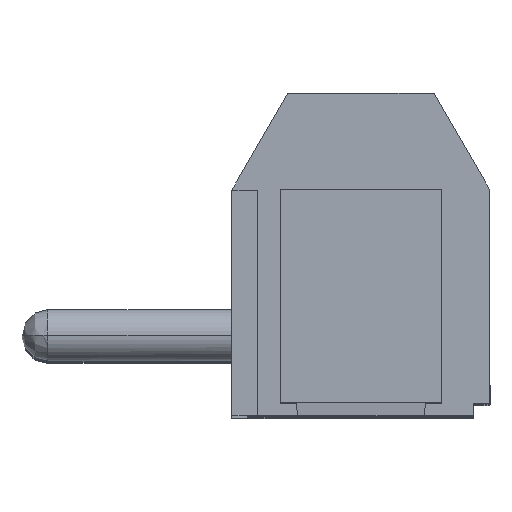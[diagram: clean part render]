
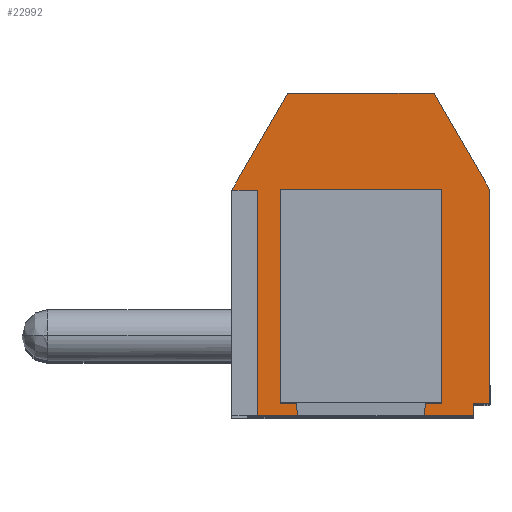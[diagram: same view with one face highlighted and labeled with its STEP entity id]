
A CAD part, top view. The second image highlights one B-rep face of the part: STEP entity #22992.
In plain terms, the highlighted planar face has unit normal (0, 0, 1).
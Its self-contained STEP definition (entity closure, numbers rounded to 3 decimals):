
#11508 = CARTESIAN_POINT ( 'NONE',  ( -3.471, -5.096, -5. ) ) ;
#11515 = DIRECTION ( 'NONE',  ( 1., 0., 0. ) ) ;
#11516 = VECTOR ( 'NONE', #11515, 1000. ) ;
#11517 = CARTESIAN_POINT ( 'NONE',  ( -0.271, -5.096, -5. ) ) ;
#11518 = LINE ( 'NONE', #11517, #11516 ) ;
#11536 = DIRECTION ( 'NONE',  ( 1., 0., 0. ) ) ;
#11537 = VECTOR ( 'NONE', #11536, 1000. ) ;
#11538 = CARTESIAN_POINT ( 'NONE',  ( -0.271, -4.696, -5. ) ) ;
#11539 = LINE ( 'NONE', #11538, #11537 ) ;
#11540 = CARTESIAN_POINT ( 'NONE',  ( 3.729, -4.696, -5. ) ) ;
#11556 = CARTESIAN_POINT ( 'NONE',  ( 3.229, -5.096, -5. ) ) ;
#11557 = DIRECTION ( 'NONE',  ( 0., 1., 0. ) ) ;
#11558 = VECTOR ( 'NONE', #11557, 1000. ) ;
#11559 = CARTESIAN_POINT ( 'NONE',  ( 3.229, -0.096, -5. ) ) ;
#11560 = LINE ( 'NONE', #11559, #11558 ) ;
#11575 = CARTESIAN_POINT ( 'NONE',  ( 3.229, -4.696, -5. ) ) ;
#11601 = CARTESIAN_POINT ( 'NONE',  ( 2.229, 1.904, -5. ) ) ;
#11602 = CARTESIAN_POINT ( 'NONE',  ( -2.771, 1.904, -5. ) ) ;
#11604 = DIRECTION ( 'NONE',  ( 1., 0., 0. ) ) ;
#11605 = VECTOR ( 'NONE', #11604, 1000. ) ;
#11606 = CARTESIAN_POINT ( 'NONE',  ( -0.271, 1.904, -5. ) ) ;
#11607 = LINE ( 'NONE', #11606, #11605 ) ;
#11629 = CARTESIAN_POINT ( 'NONE',  ( 2.229, -4.696, -5. ) ) ;
#11630 = DIRECTION ( 'NONE',  ( 0., -1., 0. ) ) ;
#11631 = VECTOR ( 'NONE', #11630, 1000. ) ;
#11632 = CARTESIAN_POINT ( 'NONE',  ( 2.229, -0.096, -5. ) ) ;
#11633 = LINE ( 'NONE', #11632, #11631 ) ;
#11667 = CARTESIAN_POINT ( 'NONE',  ( -0.271, -4.696, -5. ) ) ;
#11668 = LINE ( 'NONE', #11667, #11729 ) ;
#11679 = DIRECTION ( 'NONE',  ( 0., 1., 0. ) ) ;
#11680 = VECTOR ( 'NONE', #11679, 1000. ) ;
#11681 = CARTESIAN_POINT ( 'NONE',  ( -2.771, -0.096, -5. ) ) ;
#11682 = LINE ( 'NONE', #11681, #11680 ) ;
#11727 = CARTESIAN_POINT ( 'NONE',  ( -2.771, -4.696, -5. ) ) ;
#11728 = DIRECTION ( 'NONE',  ( -1., 0., 0. ) ) ;
#11729 = VECTOR ( 'NONE', #11728, 1000. ) ;
#12342 = DIRECTION ( 'NONE',  ( 0., 1., 0. ) ) ;
#12343 = VECTOR ( 'NONE', #12342, 1000. ) ;
#12344 = CARTESIAN_POINT ( 'NONE',  ( 3.729, -0.096, -5. ) ) ;
#12345 = LINE ( 'NONE', #12344, #12343 ) ;
#12362 = VECTOR ( 'NONE', #12429, 1000. ) ;
#12363 = CARTESIAN_POINT ( 'NONE',  ( 3.729, 1.904, -5. ) ) ;
#12364 = LINE ( 'NONE', #12363, #12362 ) ;
#12365 = CARTESIAN_POINT ( 'NONE',  ( 1.997, 4.904, -5. ) ) ;
#12375 = CARTESIAN_POINT ( 'NONE',  ( 3.729, 1.904, -5. ) ) ;
#12429 = DIRECTION ( 'NONE',  ( -0.5, 0.866, 0. ) ) ;
#16041 = DIRECTION ( 'NONE',  ( 1., 0., 0. ) ) ;
#16042 = VECTOR ( 'NONE', #16041, 1000. ) ;
#16043 = CARTESIAN_POINT ( 'NONE',  ( -3.871, 1.904, -5. ) ) ;
#16044 = LINE ( 'NONE', #16043, #16042 ) ;
#16045 = CARTESIAN_POINT ( 'NONE',  ( -4.271, 1.904, -5. ) ) ;
#16046 = DIRECTION ( 'NONE',  ( 0.5, 0.866, 0. ) ) ;
#16048 = VECTOR ( 'NONE', #16046, 1000. ) ;
#16049 = CARTESIAN_POINT ( 'NONE',  ( -3.405, 3.404, -5. ) ) ;
#16050 = LINE ( 'NONE', #16049, #16048 ) ;
#16051 = DIRECTION ( 'NONE',  ( 1., 0., 0. ) ) ;
#16052 = VECTOR ( 'NONE', #16051, 1000. ) ;
#16053 = CARTESIAN_POINT ( 'NONE',  ( 1.997, 4.904, -5. ) ) ;
#16058 = LINE ( 'NONE', #16053, #16052 ) ;
#16066 = FACE_BOUND ( 'NONE', #22993, .T. ) ;
#16072 = CARTESIAN_POINT ( 'NONE',  ( -3.471, 1.904, -5. ) ) ;
#16073 = DIRECTION ( 'NONE',  ( 0., -1., 0. ) ) ;
#16074 = VECTOR ( 'NONE', #16073, 1000. ) ;
#16085 = CARTESIAN_POINT ( 'NONE',  ( -3.471, -0.096, -5. ) ) ;
#16087 = LINE ( 'NONE', #16085, #16074 ) ;
#16088 = CARTESIAN_POINT ( 'NONE',  ( -2.539, 4.904, -5. ) ) ;
#16122 = DIRECTION ( 'NONE',  ( 1., 0., 0. ) ) ;
#16123 = DIRECTION ( 'NONE',  ( 0., 0., 1. ) ) ;
#16124 = CARTESIAN_POINT ( 'NONE',  ( -4.271, -5.096, -5. ) ) ;
#16125 = AXIS2_PLACEMENT_3D ( 'NONE', #16124, #16123, #16122 ) ;
#16126 = PLANE ( 'NONE',  #16125 ) ;
#16127 = FACE_OUTER_BOUND ( 'NONE', #22971, .T. ) ;
#21213 = EDGE_CURVE ( 'NONE', #21215, #21224, #11518, .T. ) ;
#21215 = VERTEX_POINT ( 'NONE', #11508 ) ;
#21223 = EDGE_CURVE ( 'NONE', #21224, #21249, #11560, .T. ) ;
#21224 = VERTEX_POINT ( 'NONE', #11556 ) ;
#21233 = VERTEX_POINT ( 'NONE', #11540 ) ;
#21235 = EDGE_CURVE ( 'NONE', #21249, #21233, #11539, .T. ) ;
#21249 = VERTEX_POINT ( 'NONE', #11575 ) ;
#21255 = EDGE_CURVE ( 'NONE', #21273, #21256, #11633, .T. ) ;
#21256 = VERTEX_POINT ( 'NONE', #11629 ) ;
#21271 = EDGE_CURVE ( 'NONE', #21272, #21273, #11607, .T. ) ;
#21272 = VERTEX_POINT ( 'NONE', #11602 ) ;
#21273 = VERTEX_POINT ( 'NONE', #11601 ) ;
#21310 = EDGE_CURVE ( 'NONE', #21328, #21272, #11682, .T. ) ;
#21327 = EDGE_CURVE ( 'NONE', #21256, #21328, #11668, .T. ) ;
#21328 = VERTEX_POINT ( 'NONE', #11727 ) ;
#21735 = EDGE_CURVE ( 'NONE', #21233, #21763, #12345, .T. ) ;
#21763 = VERTEX_POINT ( 'NONE', #12375 ) ;
#21769 = VERTEX_POINT ( 'NONE', #12365 ) ;
#21771 = EDGE_CURVE ( 'NONE', #21763, #21769, #12364, .T. ) ;
#22954 = EDGE_CURVE ( 'NONE', #22981, #21769, #16058, .T. ) ;
#22955 = ORIENTED_EDGE ( 'NONE', *, *, #22956, .F. ) ;
#22956 = EDGE_CURVE ( 'NONE', #22957, #22981, #16050, .T. ) ;
#22957 = VERTEX_POINT ( 'NONE', #16045 ) ;
#22958 = ORIENTED_EDGE ( 'NONE', *, *, #22959, .T. ) ;
#22959 = EDGE_CURVE ( 'NONE', #22957, #22984, #16044, .T. ) ;
#22969 = ORIENTED_EDGE ( 'NONE', *, *, #21271, .T. ) ;
#22970 = ORIENTED_EDGE ( 'NONE', *, *, #21255, .T. ) ;
#22971 = EDGE_LOOP ( 'NONE', ( #22972, #22973, #22976, #22977, #22978, #22979, #22980, #22955, #22958 ) ) ;
#22972 = ORIENTED_EDGE ( 'NONE', *, *, #22983, .T. ) ;
#22973 = ORIENTED_EDGE ( 'NONE', *, *, #21213, .T. ) ;
#22976 = ORIENTED_EDGE ( 'NONE', *, *, #21223, .T. ) ;
#22977 = ORIENTED_EDGE ( 'NONE', *, *, #21235, .T. ) ;
#22978 = ORIENTED_EDGE ( 'NONE', *, *, #21735, .T. ) ;
#22979 = ORIENTED_EDGE ( 'NONE', *, *, #21771, .T. ) ;
#22980 = ORIENTED_EDGE ( 'NONE', *, *, #22954, .F. ) ;
#22981 = VERTEX_POINT ( 'NONE', #16088 ) ;
#22983 = EDGE_CURVE ( 'NONE', #22984, #21215, #16087, .T. ) ;
#22984 = VERTEX_POINT ( 'NONE', #16072 ) ;
#22992 = ADVANCED_FACE ( 'NONE', ( #16066, #16127 ), #16126, .T. ) ;
#22993 = EDGE_LOOP ( 'NONE', ( #22994, #22995, #22969, #22970 ) ) ;
#22994 = ORIENTED_EDGE ( 'NONE', *, *, #21327, .T. ) ;
#22995 = ORIENTED_EDGE ( 'NONE', *, *, #21310, .T. ) ;
